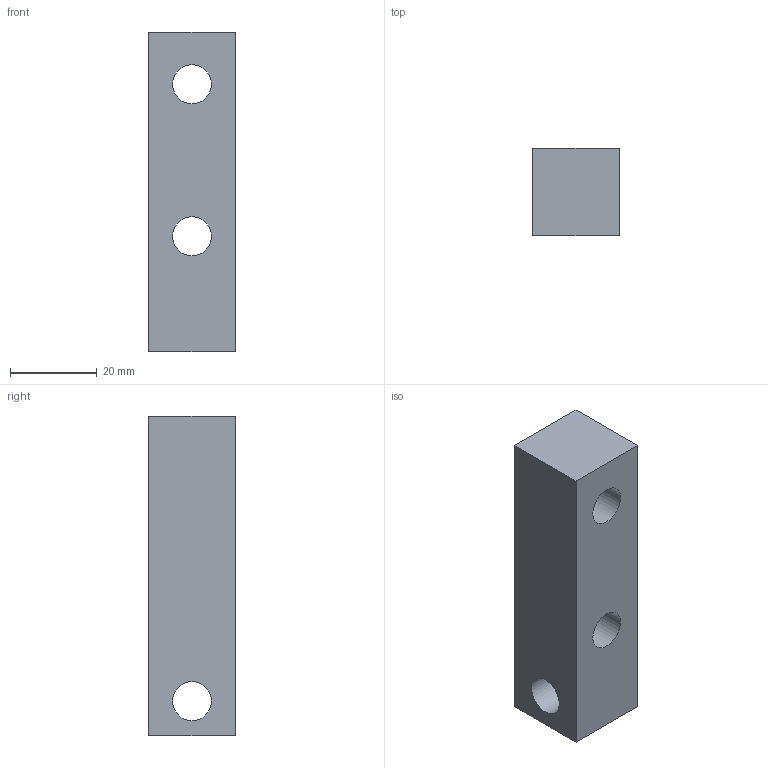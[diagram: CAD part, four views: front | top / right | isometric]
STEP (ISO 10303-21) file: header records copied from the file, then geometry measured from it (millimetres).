
FILE_DESCRIPTION(/* description */ (''),/* implementation_level */ '2;1');
FILE_NAME(/* name */ '043_bloc_serraggio.stp',/* time_stamp */ '2020-01-08T15:41:41+01:00',/* author */ (''),/* organization */ (''),/* preprocessor_version */ 'ST-DEVELOPER v16.7',/* originating_system */ 'SIEMENS PLM Software NX 12.0',/* authorisation */ '');
FILE_SCHEMA (('AUTOMOTIVE_DESIGN { 1 0 10303 214 3 1 1 1 }'));
Length unit declared in the file: millimetre
Products named in the file (1): bez2C70411Cqd6s
Bounding box: 20 x 20 x 73.6 mm (x, y, z)
Volume: 23423.9 mm3; surface area: 8354.6 mm2
Topology: 1 solids, 1 shells, 13 faces, 28 edges, 19 vertices
Faces by surface type: plane 8, cylinder 5
Full cylindrical faces by diameter (mm): 9 x3, 16 x2
Entity records: 370 total; most frequent: DIRECTION 60, CARTESIAN_POINT 54, ORIENTED_EDGE 44, EDGE_LOOP 26, FACE_BOUND 24, AXIS2_PLACEMENT_3D 24, EDGE_CURVE 22, VERTEX_POINT 18
